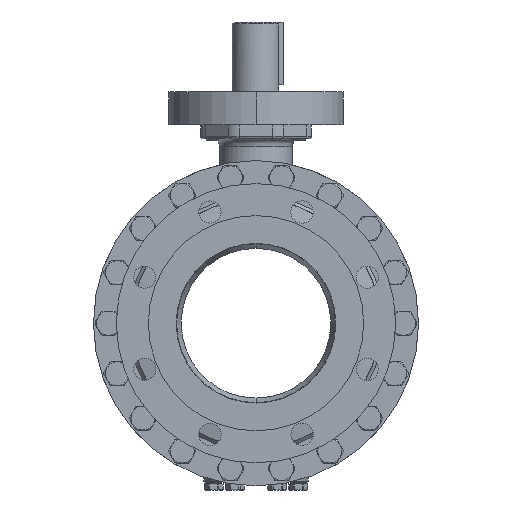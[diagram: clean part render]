
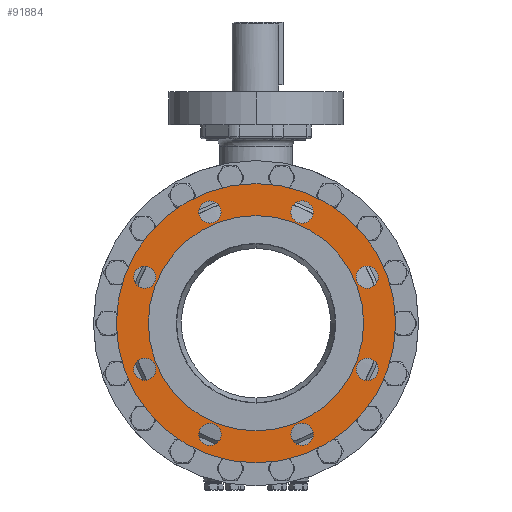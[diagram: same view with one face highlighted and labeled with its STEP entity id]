
A CAD part, left-side view. The second image highlights one B-rep face of the part: STEP entity #91884.
In plain terms, the highlighted planar face has unit normal (-1, 0, 0).
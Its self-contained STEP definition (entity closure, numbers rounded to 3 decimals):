
#14806=CARTESIAN_POINT('',(-195.5,0.,0.));
#14807=DIRECTION('',(1.,0.,0.));
#14808=DIRECTION('',(0.,0.,-1.));
#14809=AXIS2_PLACEMENT_3D('',#14806,#14807,#14808);
#14811=CARTESIAN_POINT('',(-195.5,0.,0.));
#14812=DIRECTION('',(-1.,0.,0.));
#14813=DIRECTION('',(0.,0.,-1.));
#14814=AXIS2_PLACEMENT_3D('',#14811,#14812,#14813);
#14816=CARTESIAN_POINT('',(-195.5,0.,0.));
#14817=DIRECTION('',(1.,0.,0.));
#14818=DIRECTION('',(0.,0.,-1.));
#14819=AXIS2_PLACEMENT_3D('',#14816,#14817,#14818);
#14821=CARTESIAN_POINT('',(-195.5,0.,0.));
#14822=DIRECTION('',(-1.,0.,0.));
#14823=DIRECTION('',(0.,0.,-1.));
#14824=AXIS2_PLACEMENT_3D('',#14821,#14822,#14823);
#14826=CARTESIAN_POINT('',(-195.5,-46.171,-111.466));
#14827=DIRECTION('',(-1.,0.,0.));
#14828=DIRECTION('',(0.,1.,0.));
#14829=AXIS2_PLACEMENT_3D('',#14826,#14827,#14828);
#14831=CARTESIAN_POINT('',(-195.5,-46.171,-111.466));
#14832=DIRECTION('',(-1.,0.,0.));
#14833=DIRECTION('',(0.,-1.,0.));
#14834=AXIS2_PLACEMENT_3D('',#14831,#14832,#14833);
#14836=CARTESIAN_POINT('',(-195.5,-111.466,-46.171));
#14837=DIRECTION('',(-1.,0.,0.));
#14838=DIRECTION('',(0.,0.707,-0.707));
#14839=AXIS2_PLACEMENT_3D('',#14836,#14837,#14838);
#14841=CARTESIAN_POINT('',(-195.5,-111.466,-46.171));
#14842=DIRECTION('',(-1.,0.,0.));
#14843=DIRECTION('',(0.,-0.707,0.707));
#14844=AXIS2_PLACEMENT_3D('',#14841,#14842,#14843);
#14846=CARTESIAN_POINT('',(-195.5,-111.466,46.171));
#14847=DIRECTION('',(-1.,0.,0.));
#14848=DIRECTION('',(0.,0.,-1.));
#14849=AXIS2_PLACEMENT_3D('',#14846,#14847,#14848);
#14851=CARTESIAN_POINT('',(-195.5,-111.466,46.171));
#14852=DIRECTION('',(-1.,0.,0.));
#14853=DIRECTION('',(0.,0.,1.));
#14854=AXIS2_PLACEMENT_3D('',#14851,#14852,#14853);
#14856=CARTESIAN_POINT('',(-195.5,-46.171,111.466));
#14857=DIRECTION('',(-1.,0.,0.));
#14858=DIRECTION('',(0.,-0.707,-0.707));
#14859=AXIS2_PLACEMENT_3D('',#14856,#14857,#14858);
#14861=CARTESIAN_POINT('',(-195.5,-46.171,111.466));
#14862=DIRECTION('',(-1.,0.,0.));
#14863=DIRECTION('',(0.,0.707,0.707));
#14864=AXIS2_PLACEMENT_3D('',#14861,#14862,#14863);
#14866=CARTESIAN_POINT('',(-195.5,46.171,111.466));
#14867=DIRECTION('',(-1.,0.,0.));
#14868=DIRECTION('',(0.,-1.,0.));
#14869=AXIS2_PLACEMENT_3D('',#14866,#14867,#14868);
#14871=CARTESIAN_POINT('',(-195.5,46.171,111.466));
#14872=DIRECTION('',(-1.,0.,0.));
#14873=DIRECTION('',(0.,1.,0.));
#14874=AXIS2_PLACEMENT_3D('',#14871,#14872,#14873);
#14876=CARTESIAN_POINT('',(-195.5,111.466,46.171));
#14877=DIRECTION('',(-1.,0.,0.));
#14878=DIRECTION('',(0.,-0.707,0.707));
#14879=AXIS2_PLACEMENT_3D('',#14876,#14877,#14878);
#14881=CARTESIAN_POINT('',(-195.5,111.466,46.171));
#14882=DIRECTION('',(-1.,0.,0.));
#14883=DIRECTION('',(0.,0.707,-0.707));
#14884=AXIS2_PLACEMENT_3D('',#14881,#14882,#14883);
#14886=CARTESIAN_POINT('',(-195.5,111.466,-46.171));
#14887=DIRECTION('',(-1.,0.,0.));
#14888=DIRECTION('',(0.,0.,1.));
#14889=AXIS2_PLACEMENT_3D('',#14886,#14887,#14888);
#14891=CARTESIAN_POINT('',(-195.5,111.466,-46.171));
#14892=DIRECTION('',(-1.,0.,0.));
#14893=DIRECTION('',(0.,0.,-1.));
#14894=AXIS2_PLACEMENT_3D('',#14891,#14892,#14893);
#14896=CARTESIAN_POINT('',(-195.5,46.171,-111.466));
#14897=DIRECTION('',(-1.,0.,0.));
#14898=DIRECTION('',(0.,0.707,0.707));
#14899=AXIS2_PLACEMENT_3D('',#14896,#14897,#14898);
#14901=CARTESIAN_POINT('',(-195.5,46.171,-111.466));
#14902=DIRECTION('',(-1.,0.,0.));
#14903=DIRECTION('',(0.,-0.707,-0.707));
#14904=AXIS2_PLACEMENT_3D('',#14901,#14902,#14903);
#58148=CARTESIAN_POINT('',(-195.5,0.,-140.));
#58150=VERTEX_POINT('',#58148);
#58156=CARTESIAN_POINT('',(-195.5,0.,140.));
#58158=VERTEX_POINT('',#58156);
#58188=CARTESIAN_POINT('',(-195.5,-35.021,-111.466));
#58189=VERTEX_POINT('',#58188);
#58190=CARTESIAN_POINT('',(-195.5,-57.321,-111.466));
#58191=VERTEX_POINT('',#58190);
#58196=CARTESIAN_POINT('',(-195.5,-103.582,-54.055));
#58197=VERTEX_POINT('',#58196);
#58198=CARTESIAN_POINT('',(-195.5,-119.35,-38.287));
#58199=VERTEX_POINT('',#58198);
#58204=CARTESIAN_POINT('',(-195.5,-111.466,35.021));
#58205=VERTEX_POINT('',#58204);
#58206=CARTESIAN_POINT('',(-195.5,-111.466,57.321));
#58207=VERTEX_POINT('',#58206);
#58212=CARTESIAN_POINT('',(-195.5,-54.055,103.582));
#58213=VERTEX_POINT('',#58212);
#58214=CARTESIAN_POINT('',(-195.5,-38.287,119.35));
#58215=VERTEX_POINT('',#58214);
#58220=CARTESIAN_POINT('',(-195.5,35.021,111.466));
#58221=VERTEX_POINT('',#58220);
#58222=CARTESIAN_POINT('',(-195.5,57.321,111.466));
#58223=VERTEX_POINT('',#58222);
#58228=CARTESIAN_POINT('',(-195.5,103.582,54.055));
#58229=VERTEX_POINT('',#58228);
#58230=CARTESIAN_POINT('',(-195.5,119.35,38.287));
#58231=VERTEX_POINT('',#58230);
#58236=CARTESIAN_POINT('',(-195.5,111.466,-35.021));
#58237=VERTEX_POINT('',#58236);
#58238=CARTESIAN_POINT('',(-195.5,111.466,-57.321));
#58239=VERTEX_POINT('',#58238);
#58244=CARTESIAN_POINT('',(-195.5,54.055,-103.582));
#58245=VERTEX_POINT('',#58244);
#58246=CARTESIAN_POINT('',(-195.5,38.287,-119.35));
#58247=VERTEX_POINT('',#58246);
#58249=CARTESIAN_POINT('',(-195.5,0.,-107.95));
#58251=VERTEX_POINT('',#58249);
#58253=CARTESIAN_POINT('',(-195.5,0.,107.95));
#58255=VERTEX_POINT('',#58253);
#91821=CARTESIAN_POINT('',(-195.5,0.,0.));
#91822=DIRECTION('',(-1.,0.,0.));
#91823=DIRECTION('',(0.,0.,1.));
#91824=AXIS2_PLACEMENT_3D('',#91821,#91822,#91823);
#91825=PLANE('',#91824);
#91826=ORIENTED_EDGE('',*,*,#91814,.F.);
#91827=ORIENTED_EDGE('',*,*,#91803,.T.);
#91828=EDGE_LOOP('',(#91826,#91827));
#91829=FACE_OUTER_BOUND('',#91828,.F.);
#91831=ORIENTED_EDGE('',*,*,#91830,.F.);
#91833=ORIENTED_EDGE('',*,*,#91832,.T.);
#91834=EDGE_LOOP('',(#91831,#91833));
#91835=FACE_BOUND('',#91834,.F.);
#91837=ORIENTED_EDGE('',*,*,#91836,.T.);
#91839=ORIENTED_EDGE('',*,*,#91838,.T.);
#91840=EDGE_LOOP('',(#91837,#91839));
#91841=FACE_BOUND('',#91840,.F.);
#91843=ORIENTED_EDGE('',*,*,#91842,.T.);
#91845=ORIENTED_EDGE('',*,*,#91844,.T.);
#91846=EDGE_LOOP('',(#91843,#91845));
#91847=FACE_BOUND('',#91846,.F.);
#91849=ORIENTED_EDGE('',*,*,#91848,.T.);
#91851=ORIENTED_EDGE('',*,*,#91850,.T.);
#91852=EDGE_LOOP('',(#91849,#91851));
#91853=FACE_BOUND('',#91852,.F.);
#91855=ORIENTED_EDGE('',*,*,#91854,.T.);
#91857=ORIENTED_EDGE('',*,*,#91856,.T.);
#91858=EDGE_LOOP('',(#91855,#91857));
#91859=FACE_BOUND('',#91858,.F.);
#91861=ORIENTED_EDGE('',*,*,#91860,.T.);
#91863=ORIENTED_EDGE('',*,*,#91862,.T.);
#91864=EDGE_LOOP('',(#91861,#91863));
#91865=FACE_BOUND('',#91864,.F.);
#91867=ORIENTED_EDGE('',*,*,#91866,.T.);
#91869=ORIENTED_EDGE('',*,*,#91868,.T.);
#91870=EDGE_LOOP('',(#91867,#91869));
#91871=FACE_BOUND('',#91870,.F.);
#91873=ORIENTED_EDGE('',*,*,#91872,.T.);
#91875=ORIENTED_EDGE('',*,*,#91874,.T.);
#91876=EDGE_LOOP('',(#91873,#91875));
#91877=FACE_BOUND('',#91876,.F.);
#91879=ORIENTED_EDGE('',*,*,#91878,.T.);
#91881=ORIENTED_EDGE('',*,*,#91880,.T.);
#91882=EDGE_LOOP('',(#91879,#91881));
#91883=FACE_BOUND('',#91882,.F.);
#91884=ADVANCED_FACE('',(#91829,#91835,#91841,#91847,#91853,#91859,#91865,
#91871,#91877,#91883),#91825,.T.);
#14810=CIRCLE('',#14809,140.);
#14815=CIRCLE('',#14814,140.);
#14820=CIRCLE('',#14819,107.95);
#14825=CIRCLE('',#14824,107.95);
#14830=CIRCLE('',#14829,11.15);
#14835=CIRCLE('',#14834,11.15);
#14840=CIRCLE('',#14839,11.15);
#14845=CIRCLE('',#14844,11.15);
#14850=CIRCLE('',#14849,11.15);
#14855=CIRCLE('',#14854,11.15);
#14860=CIRCLE('',#14859,11.15);
#14865=CIRCLE('',#14864,11.15);
#14870=CIRCLE('',#14869,11.15);
#14875=CIRCLE('',#14874,11.15);
#14880=CIRCLE('',#14879,11.15);
#14885=CIRCLE('',#14884,11.15);
#14890=CIRCLE('',#14889,11.15);
#14895=CIRCLE('',#14894,11.15);
#14900=CIRCLE('',#14899,11.15);
#14905=CIRCLE('',#14904,11.15);
#91803=EDGE_CURVE('',#58150,#58158,#14810,.T.);
#91814=EDGE_CURVE('',#58150,#58158,#14815,.T.);
#91830=EDGE_CURVE('',#58251,#58255,#14820,.T.);
#91832=EDGE_CURVE('',#58251,#58255,#14825,.T.);
#91836=EDGE_CURVE('',#58189,#58191,#14830,.T.);
#91838=EDGE_CURVE('',#58191,#58189,#14835,.T.);
#91842=EDGE_CURVE('',#58197,#58199,#14840,.T.);
#91844=EDGE_CURVE('',#58199,#58197,#14845,.T.);
#91848=EDGE_CURVE('',#58205,#58207,#14850,.T.);
#91850=EDGE_CURVE('',#58207,#58205,#14855,.T.);
#91854=EDGE_CURVE('',#58213,#58215,#14860,.T.);
#91856=EDGE_CURVE('',#58215,#58213,#14865,.T.);
#91860=EDGE_CURVE('',#58221,#58223,#14870,.T.);
#91862=EDGE_CURVE('',#58223,#58221,#14875,.T.);
#91866=EDGE_CURVE('',#58229,#58231,#14880,.T.);
#91868=EDGE_CURVE('',#58231,#58229,#14885,.T.);
#91872=EDGE_CURVE('',#58237,#58239,#14890,.T.);
#91874=EDGE_CURVE('',#58239,#58237,#14895,.T.);
#91878=EDGE_CURVE('',#58245,#58247,#14900,.T.);
#91880=EDGE_CURVE('',#58247,#58245,#14905,.T.);
